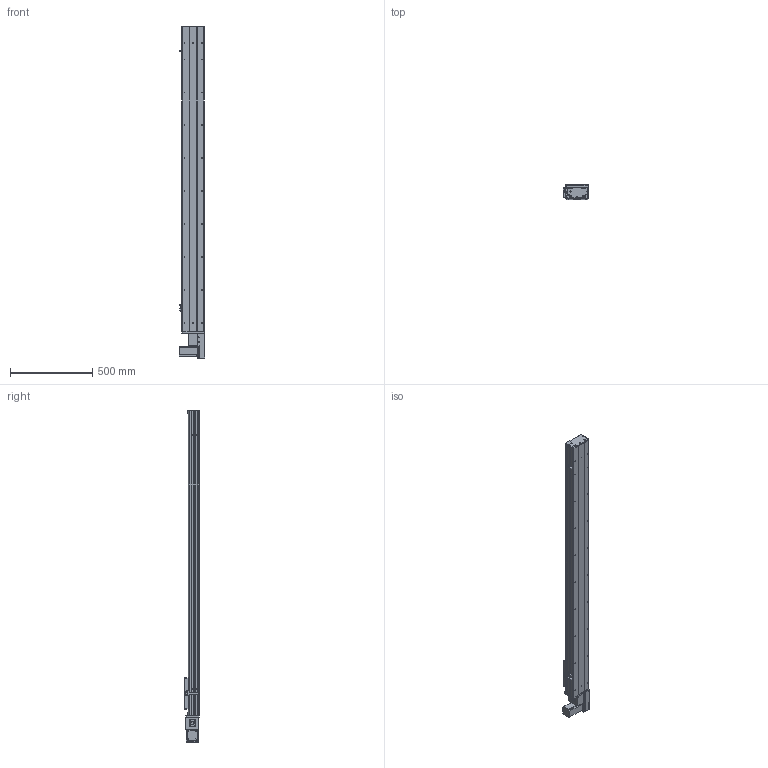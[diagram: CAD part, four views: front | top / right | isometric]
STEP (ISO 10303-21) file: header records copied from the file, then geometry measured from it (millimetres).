
FILE_DESCRIPTION (( 'STEP AP203' ), '1' );
FILE_NAME ('Y135CB-D90-S1550-BL-P400W.STEP', '2020-02-18T01:21:32', ( '微软用户' ), ( '微软中国' ), 'SwSTEP 2.0', 'SolidWorks 2017', '' );
FILE_SCHEMA (( 'CONFIG_CONTROL_DESIGN' ));
Length unit declared in the file: millimetre
Products named in the file (18): Y135C-陔俋离換覜結え-; Y135CB-耜裔; 5C--俋欶; 0B-源倛裔啣; 135CB---遴掛极.-; C-雄赽釱--; 0B-萇儂楊擘啣; 35CB---喘謫眊楊擘啣; Y135CB-D90-S1550-BL-P400W; san松下电机400不带刹车----; Y10B--々湍喘謫眊--666; 5CB --掛极耜裔啣-; Y10B-耜蚾蟀諉啣----; C-詩湍揤踡え-陔; Y俋欶BR----; 135CB--詩湍-CE; 0B-埴倛裔啣; Y100-135俋离換覜ん--
Assembly tree (21 placements, depth 2):
  Y135CB-D90-S1550-BL-P400W
    Y135CB-耜裔
    135CB---遴掛极.-
    35CB---喘謫眊楊擘啣
    Y10B--々湍喘謫眊--666
    Y10B-耜蚾蟀諉啣----
    Y俋欶BR----
    0B-埴倛裔啣
    0B-源倛裔啣
    0B-萇儂楊擘啣
    san松下电机400不带刹车----
    5CB --掛极耜裔啣-  x2
    C-詩湍揤踡え-陔  x2
    135CB--詩湍-CE
    Y100-135俋离換覜ん--  x3
    Y135C-陔俋离換覜結え-
    5C--俋欶
    C-雄赽釱--
Bounding box: 157.5 x 91 x 2014.5 mm (x, y, z)
Volume: 5815546.6 mm3; surface area: 2290738.6 mm2
Topology: 21 solids, 21 shells, 957 faces, 2581 edges, 1710 vertices
Faces by surface type: cylinder 483, plane 458, cone 16
Entity records: 29947 total; most frequent: DIRECTION 4973, CARTESIAN_POINT 4944, ORIENTED_EDGE 4638, EDGE_CURVE 2319, AXIS2_PLACEMENT_3D 1815, VERTEX_POINT 1538, VECTOR 1343, LINE 1343
